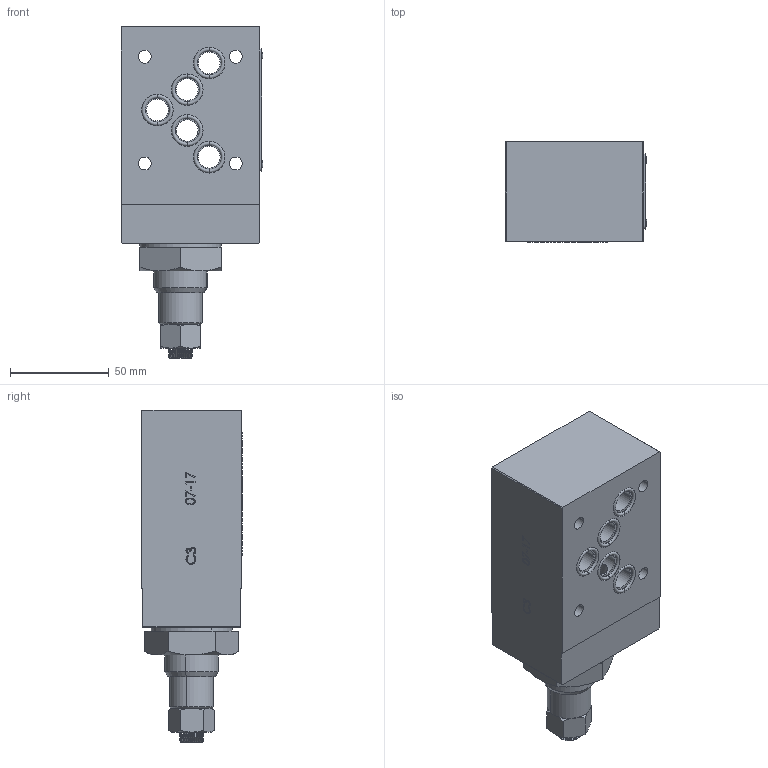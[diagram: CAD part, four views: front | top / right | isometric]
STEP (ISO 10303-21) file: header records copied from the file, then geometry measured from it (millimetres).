
FILE_DESCRIPTION (( 'STEP AP214' ), '1' );
FILE_NAME ('358-5-B-05.STEP', '2019-12-04T08:49:06', ( '' ), ( '' ), 'SwSTEP 2.0', 'SolidWorks 2018', '' );
FILE_SCHEMA (( 'AUTOMOTIVE_DESIGN' ));
Length unit declared in the file: millimetre
Products named in the file (1): 358-5-B-05
Bounding box: 71.66 x 50.58 x 167.8 mm (x, y, z)
Surface area: 54634.3 mm2 (no closed solid volume)
Topology: 0 solids, 57 shells, 643 faces, 3211 edges, 2560 vertices
Faces by surface type: plane 356, bspline 98, cylinder 92, cone 69, torus 20, sphere 8
Entity records: 52119 total; most frequent: CARTESIAN_POINT 21892, ORIENTED_EDGE 4320, DIRECTION 3864, EDGE_CURVE 3211, VERTEX_POINT 2560, LINE 2038, VECTOR 2038, AXIS2_PLACEMENT_3D 913
